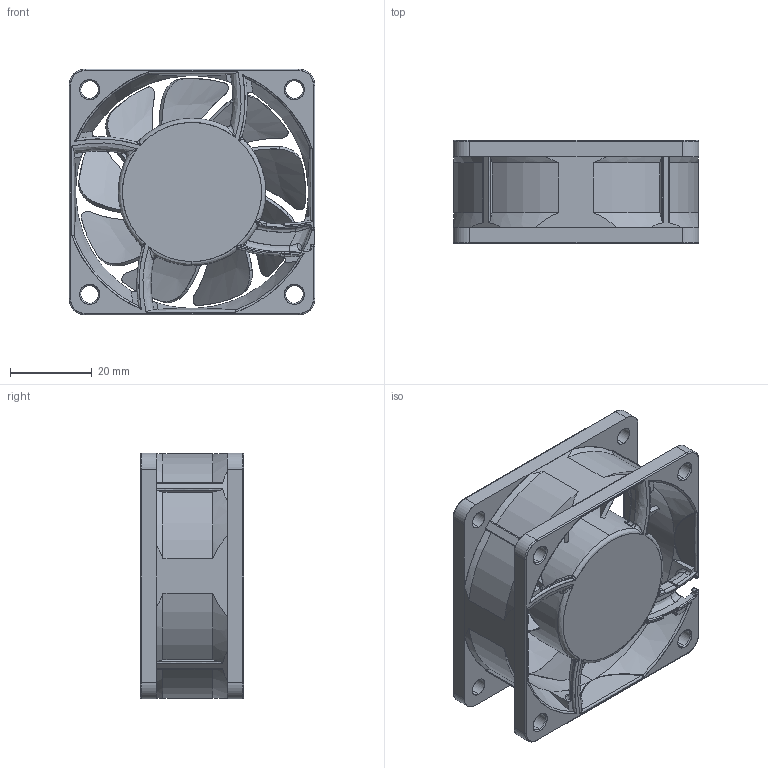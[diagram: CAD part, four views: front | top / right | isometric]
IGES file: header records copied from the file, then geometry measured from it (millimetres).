
Start section: SolidWorks IGES file using analytic representation for surfaces
Bounding box: 60 x 25.2 x 60 mm (x, y, z)
Surface area: 21313.1 mm2 (no closed solid volume)
Topology: 0 solids, 0 shells, 555 faces, 5979 edges, 5929 vertices
Faces by surface type: bspline 351, revolution 204
